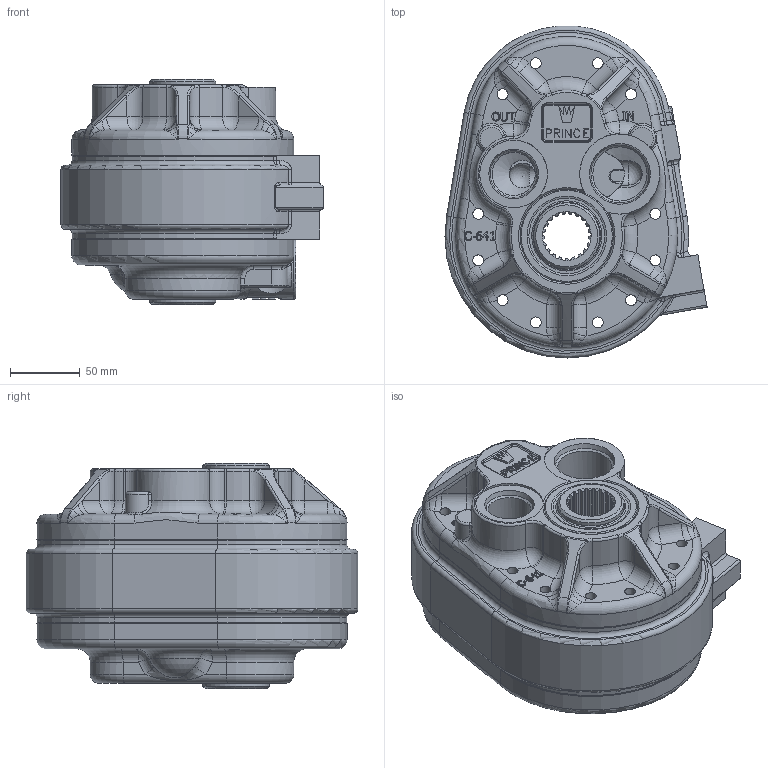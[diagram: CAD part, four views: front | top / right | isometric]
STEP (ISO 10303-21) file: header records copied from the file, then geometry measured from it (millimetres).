
FILE_DESCRIPTION((''),'2;1');
FILE_NAME('C:\Vault\Workspace\AssembliesPumps\HC-P_\HC-P-K11Cmodel.stp','2013-07-05T08:21:24',('otterbyj'),(''),'Autodesk Inventor 2012','Autodesk Inventor 2012','');
FILE_SCHEMA(('AUTOMOTIVE_DESIGN { 1 0 10303 214 1 1 1 1 }'));
Length unit declared in the file: inch
Products named in the file (6): HC-P-K11Cmodel; 500101004; 500101015; 500103033; 500104025model; 240016026
Assembly tree (6 placements, depth 2):
  HC-P-K11Cmodel
    500101004
    500101015
    500103033
    500104025model
    240016026  x2
Bounding box: 187.86 x 237.9 x 161.29 mm (x, y, z)
Volume: 2471662.7 mm3; surface area: 404562.5 mm2
Topology: 6 solids, 8 shells, 1343 faces, 3474 edges, 2151 vertices
Faces by surface type: plane 404, cylinder 348, bspline 315, torus 134, cone 110, sphere 32
Full cylindrical faces by diameter (mm): 7.798 x16, 9.545 x6, 10.319 x28, 16.256 x1, 19.05 x1, 20.574 x1, 23.8 x1, 30.963 x1, 37.033 x1, 38.887 x1, 41.255 x2, 42.926 x1, 47.582 x1, 48.514 x1, 53.184 x2, 61.04 x2, 61.89 x2, 64.77 x2, 66.599 x2, 66.802 x2
Entity records: 47828 total; most frequent: CARTESIAN_POINT 16747, ORIENTED_EDGE 6434, DIRECTION 5644, EDGE_CURVE 3217, AXIS2_PLACEMENT_3D 2154, VERTEX_POINT 2062, EDGE_LOOP 1573, VECTOR 1336
